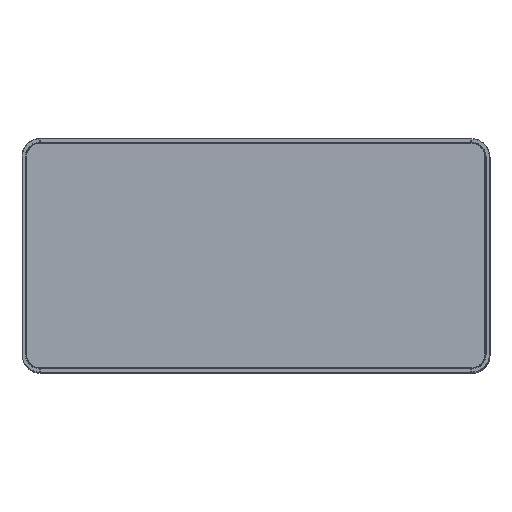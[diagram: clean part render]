
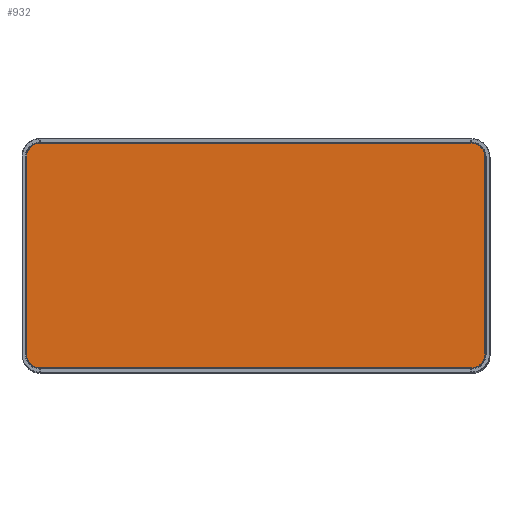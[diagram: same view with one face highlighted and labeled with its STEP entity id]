
A CAD part, top view. The second image highlights one B-rep face of the part: STEP entity #932.
In plain terms, the highlighted planar face has unit normal (0, 0, 1).
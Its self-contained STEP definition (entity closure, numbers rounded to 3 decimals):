
#932=ADVANCED_FACE('',(#1848),#11388,.T.);
#1848=FACE_OUTER_BOUND('',#2764,.T.);
#2764=EDGE_LOOP('',(#6005,#6006,#6007,#6008,#6009,#6010,#6011,#6012));
#6005=ORIENTED_EDGE('',*,*,#8147,.T.);
#6006=ORIENTED_EDGE('',*,*,#8182,.T.);
#6007=ORIENTED_EDGE('',*,*,#8150,.T.);
#6008=ORIENTED_EDGE('',*,*,#8158,.T.);
#6009=ORIENTED_EDGE('',*,*,#8148,.T.);
#6010=ORIENTED_EDGE('',*,*,#8165,.T.);
#6011=ORIENTED_EDGE('',*,*,#8149,.T.);
#6012=ORIENTED_EDGE('',*,*,#8174,.T.);
#8147=EDGE_CURVE('',#11111,#11112,#8943,.T.);
#8148=EDGE_CURVE('',#11114,#11115,#8944,.T.);
#8149=EDGE_CURVE('',#11116,#11113,#8945,.T.);
#8150=EDGE_CURVE('',#11117,#11118,#8946,.T.);
#8158=EDGE_CURVE('',#11118,#11114,#10036,.T.);
#8165=EDGE_CURVE('',#11115,#11116,#10043,.T.);
#8174=EDGE_CURVE('',#11113,#11111,#10052,.T.);
#8182=EDGE_CURVE('',#11112,#11117,#10060,.T.);
#8943=B_SPLINE_CURVE_WITH_KNOTS('',1,(#25081,#25082),.UNSPECIFIED.,.F.,
 .F.,(2,2),(0.,420.),.UNSPECIFIED.);
#8944=B_SPLINE_CURVE_WITH_KNOTS('',1,(#25083,#25084),.UNSPECIFIED.,.F.,
 .F.,(2,2),(0.,420.),.UNSPECIFIED.);
#8945=B_SPLINE_CURVE_WITH_KNOTS('',1,(#25085,#25086),.UNSPECIFIED.,.F.,
 .F.,(2,2),(0.,920.),.UNSPECIFIED.);
#8946=B_SPLINE_CURVE_WITH_KNOTS('',1,(#25087,#25088),.UNSPECIFIED.,.F.,
 .F.,(2,2),(0.,920.),.UNSPECIFIED.);
#10036=(
BOUNDED_CURVE()
B_SPLINE_CURVE(2,(#25108,#25109,#25110),.UNSPECIFIED.,.F.,.F.)
B_SPLINE_CURVE_WITH_KNOTS((3,3),(0.,47.752),.UNSPECIFIED.)
CURVE()
GEOMETRIC_REPRESENTATION_ITEM()
RATIONAL_B_SPLINE_CURVE((1.,0.707,1.))
REPRESENTATION_ITEM('')
);
#10043=(
BOUNDED_CURVE()
B_SPLINE_CURVE(2,(#25127,#25128,#25129),.UNSPECIFIED.,.F.,.F.)
B_SPLINE_CURVE_WITH_KNOTS((3,3),(0.,47.752),.UNSPECIFIED.)
CURVE()
GEOMETRIC_REPRESENTATION_ITEM()
RATIONAL_B_SPLINE_CURVE((1.,0.707,1.))
REPRESENTATION_ITEM('')
);
#10052=(
BOUNDED_CURVE()
B_SPLINE_CURVE(2,(#25152,#25153,#25154),.UNSPECIFIED.,.F.,.F.)
B_SPLINE_CURVE_WITH_KNOTS((3,3),(0.,47.752),.UNSPECIFIED.)
CURVE()
GEOMETRIC_REPRESENTATION_ITEM()
RATIONAL_B_SPLINE_CURVE((1.,0.707,1.))
REPRESENTATION_ITEM('')
);
#10060=(
BOUNDED_CURVE()
B_SPLINE_CURVE(2,(#25174,#25175,#25176),.UNSPECIFIED.,.F.,.F.)
B_SPLINE_CURVE_WITH_KNOTS((3,3),(0.,47.752),.UNSPECIFIED.)
CURVE()
GEOMETRIC_REPRESENTATION_ITEM()
RATIONAL_B_SPLINE_CURVE((1.,0.707,1.))
REPRESENTATION_ITEM('')
);
#11111=VERTEX_POINT('',#25025);
#11112=VERTEX_POINT('',#25026);
#11113=VERTEX_POINT('',#25027);
#11114=VERTEX_POINT('',#25028);
#11115=VERTEX_POINT('',#25029);
#11116=VERTEX_POINT('',#25030);
#11117=VERTEX_POINT('',#25031);
#11118=VERTEX_POINT('',#25032);
#11388=PLANE('',#12324);
#12324=AXIS2_PLACEMENT_3D('',#24880,#12469,$);
#12469=DIRECTION('',(0.,0.,1.));
#24880=CARTESIAN_POINT('',(-15543.744,-182.978,1411.961));
#25025=CARTESIAN_POINT('',(-15420.394,328.272,1411.961));
#25026=CARTESIAN_POINT('',(-15420.394,-91.728,1411.961));
#25027=CARTESIAN_POINT('',(-15389.994,358.672,1411.961));
#25028=CARTESIAN_POINT('',(-14439.594,-91.728,1411.961));
#25029=CARTESIAN_POINT('',(-14439.594,328.272,1411.961));
#25030=CARTESIAN_POINT('',(-14469.994,358.672,1411.961));
#25031=CARTESIAN_POINT('',(-15389.994,-122.128,1411.961));
#25032=CARTESIAN_POINT('',(-14469.994,-122.128,1411.961));
#25081=CARTESIAN_POINT('',(-15420.394,328.272,1411.961));
#25082=CARTESIAN_POINT('',(-15420.394,-91.728,1411.961));
#25083=CARTESIAN_POINT('',(-14439.594,-91.728,1411.961));
#25084=CARTESIAN_POINT('',(-14439.594,328.272,1411.961));
#25085=CARTESIAN_POINT('',(-14469.994,358.672,1411.961));
#25086=CARTESIAN_POINT('',(-15389.994,358.672,1411.961));
#25087=CARTESIAN_POINT('',(-15389.994,-122.128,1411.961));
#25088=CARTESIAN_POINT('',(-14469.994,-122.128,1411.961));
#25108=CARTESIAN_POINT('',(-14469.994,-122.128,1411.961));
#25109=CARTESIAN_POINT('',(-14439.594,-122.128,1411.961));
#25110=CARTESIAN_POINT('',(-14439.594,-91.728,1411.961));
#25127=CARTESIAN_POINT('',(-14439.594,328.272,1411.961));
#25128=CARTESIAN_POINT('',(-14439.594,358.672,1411.961));
#25129=CARTESIAN_POINT('',(-14469.994,358.672,1411.961));
#25152=CARTESIAN_POINT('',(-15389.994,358.672,1411.961));
#25153=CARTESIAN_POINT('',(-15420.394,358.672,1411.961));
#25154=CARTESIAN_POINT('',(-15420.394,328.272,1411.961));
#25174=CARTESIAN_POINT('',(-15420.394,-91.728,1411.961));
#25175=CARTESIAN_POINT('',(-15420.394,-122.128,1411.961));
#25176=CARTESIAN_POINT('',(-15389.994,-122.128,1411.961));
